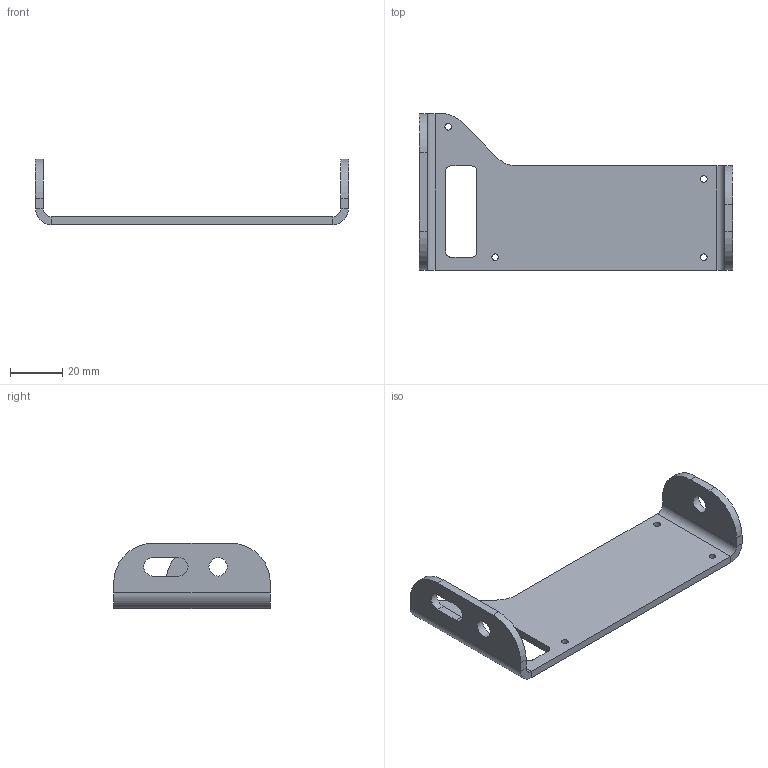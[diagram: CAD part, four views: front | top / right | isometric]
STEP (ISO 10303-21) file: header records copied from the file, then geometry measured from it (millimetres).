
FILE_DESCRIPTION(/* description */ (''),/* implementation_level */ '2;1');
FILE_NAME(/* name */ 'C:/Users/anton/Documents/Kerbal Space Program/Kerbal_Control_Panel/KCP2/CAD/ForManufacture/ThrottleBracket_v38.step',/* time_stamp */ '2020-11-13T15:21:03-08:00',/* author */ (''),/* organization */ (''),/* preprocessor_version */ 'ST-DEVELOPER v18.1',/* originating_system */ 'Autodesk Translation Framework v9.3.0.1241',/* authorisation */ '');
FILE_SCHEMA (('AUTOMOTIVE_DESIGN { 1 0 10303 214 3 1 1 }'));
Length unit declared in the file: millimetre
Products named in the file (1): Bracket
Bounding box: 120 x 60 x 25 mm (x, y, z)
Volume: 19354.8 mm3; surface area: 14734 mm2
Topology: 1 solids, 1 shells, 48 faces, 122 edges, 76 vertices
Faces by surface type: plane 26, cylinder 22
Full cylindrical faces by diameter (mm): 2.529 x4, 7 x2
Entity records: 1514 total; most frequent: DIRECTION 264, CARTESIAN_POINT 247, ORIENTED_EDGE 244, EDGE_CURVE 122, AXIS2_PLACEMENT_3D 93, LINE 78, VECTOR 78, VERTEX_POINT 76
